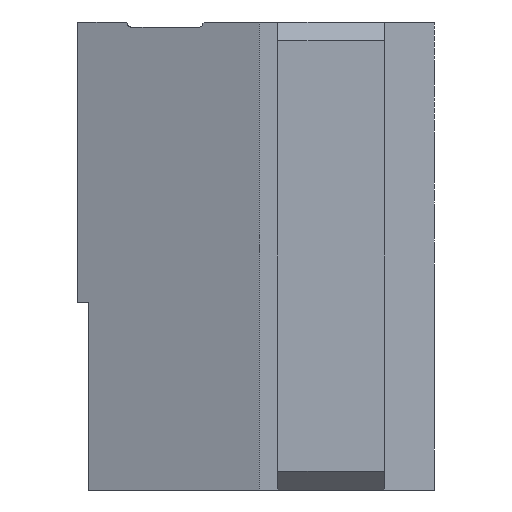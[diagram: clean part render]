
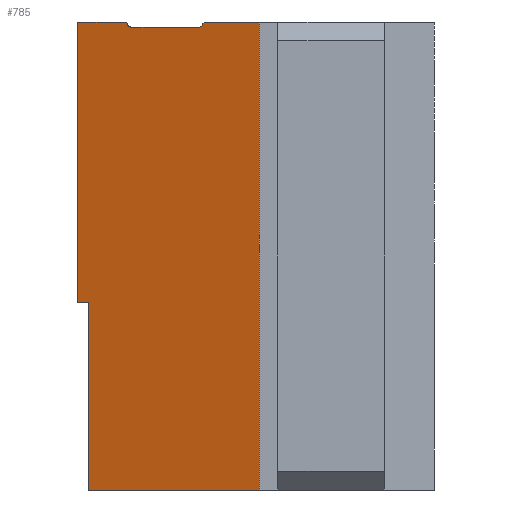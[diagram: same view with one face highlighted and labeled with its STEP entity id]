
A CAD part, front view. The second image highlights one B-rep face of the part: STEP entity #785.
In plain terms, the highlighted planar face has unit normal (-0.326, -0.945, 0).
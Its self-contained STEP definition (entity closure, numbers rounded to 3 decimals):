
#17 = ORIENTED_EDGE ( 'NONE', *, *, #310, .F. ) ;
#25 = CARTESIAN_POINT ( 'NONE',  ( -37., -16.897, -70.926 ) ) ;
#80 = CARTESIAN_POINT ( 'NONE',  ( -37., -16.897, 37.2 ) ) ;
#82 = VERTEX_POINT ( 'NONE', #944 ) ;
#89 = CARTESIAN_POINT ( 'NONE',  ( -57., -10., -7.4 ) ) ;
#156 = EDGE_CURVE ( 'NONE', #2642, #2640, #2190, .T. ) ;
#188 = DIRECTION ( 'NONE',  ( 0., 0., -1. ) ) ;
#189 = VERTEX_POINT ( 'NONE', #1534 ) ;
#249 = LINE ( 'NONE', #2726, #2511 ) ;
#310 = EDGE_CURVE ( 'NONE', #2579, #713, #2572, .T. ) ;
#315 = CARTESIAN_POINT ( 'NONE',  ( -28., -20., 37.4 ) ) ;
#336 = CARTESIAN_POINT ( 'NONE',  ( -49., -12.759, 36.807 ) ) ;
#367 = EDGE_CURVE ( 'NONE', #1841, #82, #1105, .T. ) ;
#368 = CARTESIAN_POINT ( 'NONE',  ( -98.59, 4.342, -24.39 ) ) ;
#375 = LINE ( 'NONE', #25, #1015 ) ;
#392 = LINE ( 'NONE', #423, #549 ) ;
#423 = CARTESIAN_POINT ( 'NONE',  ( -55.2, -10.621, -70.926 ) ) ;
#500 =( BOUNDED_CURVE ( )  B_SPLINE_CURVE ( 3, ( #1006, #2324, #1278, #1705 ),
 .UNSPECIFIED., .F., .T. ) 
 B_SPLINE_CURVE_WITH_KNOTS ( ( 4, 4 ),
 ( 0., 1.571 ),
 .UNSPECIFIED. ) 
 CURVE ( )  GEOMETRIC_REPRESENTATION_ITEM ( )  RATIONAL_B_SPLINE_CURVE ( ( 1., 0.805, 0.805, 1. ) ) 
 REPRESENTATION_ITEM ( '' )  );
#514 = VECTOR ( 'NONE', #667, 1000. ) ;
#541 = VECTOR ( 'NONE', #1541, 1000. ) ;
#549 = VECTOR ( 'NONE', #188, 1000. ) ;
#597 = VERTEX_POINT ( 'NONE', #315 ) ;
#600 = VERTEX_POINT ( 'NONE', #1792 ) ;
#623 = DIRECTION ( 'NONE',  ( 0.945, -0.326, 0. ) ) ;
#625 = EDGE_CURVE ( 'NONE', #2449, #713, #1914, .T. ) ;
#638 = CARTESIAN_POINT ( 'NONE',  ( -37., -16.897, 37.1 ) ) ;
#658 = CARTESIAN_POINT ( 'NONE',  ( -49.2, -12.69, 37.4 ) ) ;
#667 = DIRECTION ( 'NONE',  ( 0., 0., -1. ) ) ;
#673 = FACE_OUTER_BOUND ( 'NONE', #1779, .T. ) ;
#713 = VERTEX_POINT ( 'NONE', #1834 ) ;
#743 = DIRECTION ( 'NONE',  ( -0.687, 0.237, 0.687 ) ) ;
#785 = ADVANCED_FACE ( 'NONE', ( #673 ), #1445, .T. ) ;
#787 = EDGE_CURVE ( 'NONE', #2449, #189, #249, .T. ) ;
#806 = EDGE_CURVE ( 'NONE', #2252, #597, #1863, .T. ) ;
#809 = ORIENTED_EDGE ( 'NONE', *, *, #787, .F. ) ;
#818 = CARTESIAN_POINT ( 'NONE',  ( -57., -10., -70.926 ) ) ;
#847 = VECTOR ( 'NONE', #2273, 1000. ) ;
#872 = EDGE_CURVE ( 'NONE', #1146, #1841, #392, .T. ) ;
#918 = CARTESIAN_POINT ( 'NONE',  ( -49., -12.759, 37.2 ) ) ;
#927 = ORIENTED_EDGE ( 'NONE', *, *, #806, .F. ) ;
#944 = CARTESIAN_POINT ( 'NONE',  ( -28., -20., -37.4 ) ) ;
#945 = EDGE_CURVE ( 'NONE', #2226, #189, #500, .T. ) ;
#987 = CARTESIAN_POINT ( 'NONE',  ( -49., -12.759, 37.1 ) ) ;
#1003 = EDGE_CURVE ( 'NONE', #82, #597, #2536, .T. ) ;
#1006 = CARTESIAN_POINT ( 'NONE',  ( -37., -16.897, 37.1 ) ) ;
#1014 = LINE ( 'NONE', #2156, #1314 ) ;
#1015 = VECTOR ( 'NONE', #1451, 1000. ) ;
#1044 = EDGE_CURVE ( 'NONE', #2252, #1636, #2364, .T. ) ;
#1105 = LINE ( 'NONE', #1951, #1230 ) ;
#1106 = EDGE_CURVE ( 'NONE', #2226, #1636, #375, .T. ) ;
#1146 = VERTEX_POINT ( 'NONE', #1659 ) ;
#1200 = VECTOR ( 'NONE', #623, 1000. ) ;
#1230 = VECTOR ( 'NONE', #2157, 1000. ) ;
#1238 = DIRECTION ( 'NONE',  ( 0.945, -0.326, 0. ) ) ;
#1266 = CARTESIAN_POINT ( 'NONE',  ( -28., -20., -70.926 ) ) ;
#1278 = CARTESIAN_POINT ( 'NONE',  ( -37.207, -16.825, 36.6 ) ) ;
#1306 = CARTESIAN_POINT ( 'NONE',  ( -57., -10., 37.4 ) ) ;
#1314 = VECTOR ( 'NONE', #743, 1000. ) ;
#1374 = EDGE_CURVE ( 'NONE', #2579, #2640, #1014, .T. ) ;
#1392 = DIRECTION ( 'NONE',  ( -0.945, 0.326, 0. ) ) ;
#1404 = VECTOR ( 'NONE', #1392, 1000. ) ;
#1418 = ORIENTED_EDGE ( 'NONE', *, *, #625, .T. ) ;
#1438 = ORIENTED_EDGE ( 'NONE', *, *, #2000, .T. ) ;
#1445 = PLANE ( 'NONE',  #2208 ) ;
#1451 = DIRECTION ( 'NONE',  ( 0., 0., 1. ) ) ;
#1518 = CARTESIAN_POINT ( 'NONE',  ( -49., -12.759, -70.926 ) ) ;
#1533 = CARTESIAN_POINT ( 'NONE',  ( -36.8, -16.966, 37.4 ) ) ;
#1534 = CARTESIAN_POINT ( 'NONE',  ( -37.5, -16.724, 36.6 ) ) ;
#1541 = DIRECTION ( 'NONE',  ( 0.945, -0.326, 0. ) ) ;
#1626 = LINE ( 'NONE', #1306, #514 ) ;
#1636 = VERTEX_POINT ( 'NONE', #80 ) ;
#1654 = DIRECTION ( 'NONE',  ( 0., 0., 1. ) ) ;
#1659 = CARTESIAN_POINT ( 'NONE',  ( -55.2, -10.621, -7.4 ) ) ;
#1705 = CARTESIAN_POINT ( 'NONE',  ( -37.5, -16.724, 36.6 ) ) ;
#1741 = CARTESIAN_POINT ( 'NONE',  ( -57., -10., 37.4 ) ) ;
#1779 = EDGE_LOOP ( 'NONE', ( #17, #2022, #2702, #1438, #2062, #1995, #2405, #2484, #927, #2578, #2096, #2412, #809, #1418 ) ) ;
#1792 = CARTESIAN_POINT ( 'NONE',  ( -57., -10., -7.4 ) ) ;
#1834 = CARTESIAN_POINT ( 'NONE',  ( -49., -12.759, 37.1 ) ) ;
#1841 = VERTEX_POINT ( 'NONE', #2448 ) ;
#1850 = DIRECTION ( 'NONE',  ( 0.945, -0.326, 0. ) ) ;
#1863 = LINE ( 'NONE', #1866, #1200 ) ;
#1866 = CARTESIAN_POINT ( 'NONE',  ( -57., -10., 37.4 ) ) ;
#1914 =( BOUNDED_CURVE ( )  B_SPLINE_CURVE ( 3, ( #2217, #2677, #336, #987 ),
 .UNSPECIFIED., .F., .F. ) 
 B_SPLINE_CURVE_WITH_KNOTS ( ( 4, 4 ),
 ( 1.571, 3.142 ),
 .UNSPECIFIED. ) 
 CURVE ( )  GEOMETRIC_REPRESENTATION_ITEM ( )  RATIONAL_B_SPLINE_CURVE ( ( 1., 0.805, 0.805, 1. ) ) 
 REPRESENTATION_ITEM ( '' )  );
#1951 = CARTESIAN_POINT ( 'NONE',  ( -57., -10., -37.4 ) ) ;
#1968 = VECTOR ( 'NONE', #2340, 1000. ) ;
#1995 = ORIENTED_EDGE ( 'NONE', *, *, #872, .T. ) ;
#2000 = EDGE_CURVE ( 'NONE', #2642, #600, #1626, .T. ) ;
#2022 = ORIENTED_EDGE ( 'NONE', *, *, #1374, .T. ) ;
#2062 = ORIENTED_EDGE ( 'NONE', *, *, #2678, .F. ) ;
#2096 = ORIENTED_EDGE ( 'NONE', *, *, #1106, .F. ) ;
#2156 = CARTESIAN_POINT ( 'NONE',  ( -2.195, -28.898, -9.605 ) ) ;
#2157 = DIRECTION ( 'NONE',  ( 0.945, -0.326, 0. ) ) ;
#2190 = LINE ( 'NONE', #1741, #541 ) ;
#2208 = AXIS2_PLACEMENT_3D ( 'NONE', #818, #2504, #1238 ) ;
#2217 = CARTESIAN_POINT ( 'NONE',  ( -48.5, -12.931, 36.6 ) ) ;
#2226 = VERTEX_POINT ( 'NONE', #638 ) ;
#2246 = CARTESIAN_POINT ( 'NONE',  ( -57., -10., 37.4 ) ) ;
#2252 = VERTEX_POINT ( 'NONE', #1533 ) ;
#2273 = DIRECTION ( 'NONE',  ( -0.687, 0.237, -0.687 ) ) ;
#2324 = CARTESIAN_POINT ( 'NONE',  ( -37., -16.897, 36.807 ) ) ;
#2340 = DIRECTION ( 'NONE',  ( 0., 0., -1. ) ) ;
#2363 = LINE ( 'NONE', #89, #1404 ) ;
#2364 = LINE ( 'NONE', #368, #847 ) ;
#2405 = ORIENTED_EDGE ( 'NONE', *, *, #367, .T. ) ;
#2412 = ORIENTED_EDGE ( 'NONE', *, *, #945, .T. ) ;
#2448 = CARTESIAN_POINT ( 'NONE',  ( -55.2, -10.621, -37.4 ) ) ;
#2449 = VERTEX_POINT ( 'NONE', #2749 ) ;
#2484 = ORIENTED_EDGE ( 'NONE', *, *, #1003, .T. ) ;
#2504 = DIRECTION ( 'NONE',  ( -0.326, -0.945, 0. ) ) ;
#2511 = VECTOR ( 'NONE', #1850, 1000. ) ;
#2536 = LINE ( 'NONE', #1266, #2612 ) ;
#2572 = LINE ( 'NONE', #1518, #1968 ) ;
#2578 = ORIENTED_EDGE ( 'NONE', *, *, #1044, .T. ) ;
#2579 = VERTEX_POINT ( 'NONE', #918 ) ;
#2612 = VECTOR ( 'NONE', #1654, 1000. ) ;
#2640 = VERTEX_POINT ( 'NONE', #658 ) ;
#2642 = VERTEX_POINT ( 'NONE', #2246 ) ;
#2677 = CARTESIAN_POINT ( 'NONE',  ( -48.793, -12.83, 36.6 ) ) ;
#2678 = EDGE_CURVE ( 'NONE', #1146, #600, #2363, .T. ) ;
#2702 = ORIENTED_EDGE ( 'NONE', *, *, #156, .F. ) ;
#2726 = CARTESIAN_POINT ( 'NONE',  ( -57., -10., 36.6 ) ) ;
#2749 = CARTESIAN_POINT ( 'NONE',  ( -48.5, -12.931, 36.6 ) ) ;
